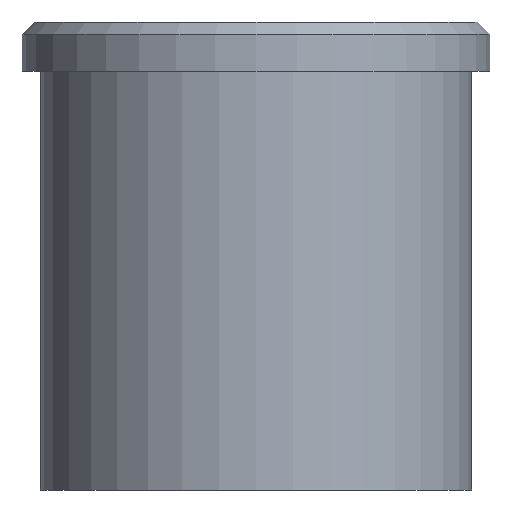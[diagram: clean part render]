
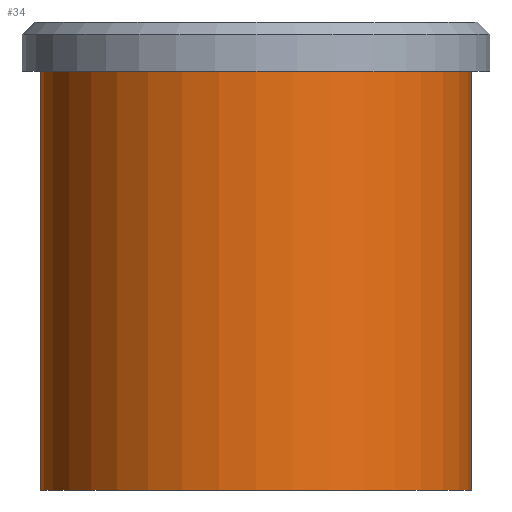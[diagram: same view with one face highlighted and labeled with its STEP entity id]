
A CAD part, front view. The second image highlights one B-rep face of the part: STEP entity #34.
In plain terms, the highlighted cylindrical face has radius 8.75 mm (diameter 17.5 mm), a full revolution.
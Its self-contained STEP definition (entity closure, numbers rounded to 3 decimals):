
#27 = VERTEX_POINT ( 'NONE', #67 ) ;
#34 = ADVANCED_FACE ( 'NONE', ( #199, #58 ), #167, .T. ) ;
#42 = CIRCLE ( 'NONE', #152, 8.75 ) ;
#56 = DIRECTION ( 'NONE',  ( 0., 0., 1. ) ) ;
#58 = FACE_OUTER_BOUND ( 'NONE', #170, .T. ) ;
#67 = CARTESIAN_POINT ( 'NONE',  ( 8.75, 0., -2. ) ) ;
#72 = EDGE_LOOP ( 'NONE', ( #192 ) ) ;
#90 = DIRECTION ( 'NONE',  ( 0., 0., 1. ) ) ;
#98 = AXIS2_PLACEMENT_3D ( 'NONE', #149, #90, #132 ) ;
#122 = EDGE_CURVE ( 'NONE', #185, #185, #168, .T. ) ;
#128 = EDGE_CURVE ( 'NONE', #27, #27, #42, .T. ) ;
#131 = DIRECTION ( 'NONE',  ( 0., 0., 1. ) ) ;
#132 = DIRECTION ( 'NONE',  ( 1., 0., 0. ) ) ;
#141 = AXIS2_PLACEMENT_3D ( 'NONE', #173, #131, #178 ) ;
#149 = CARTESIAN_POINT ( 'NONE',  ( 0., 0., 7.209 ) ) ;
#152 = AXIS2_PLACEMENT_3D ( 'NONE', #181, #56, #166 ) ;
#166 = DIRECTION ( 'NONE',  ( 1., 0., 0. ) ) ;
#167 = CYLINDRICAL_SURFACE ( 'NONE', #98, 8.75 ) ;
#168 = CIRCLE ( 'NONE', #141, 8.75 ) ;
#170 = EDGE_LOOP ( 'NONE', ( #174 ) ) ;
#173 = CARTESIAN_POINT ( 'NONE',  ( 0., 0., -19. ) ) ;
#174 = ORIENTED_EDGE ( 'NONE', *, *, #122, .T. ) ;
#178 = DIRECTION ( 'NONE',  ( 1., 0., 0. ) ) ;
#181 = CARTESIAN_POINT ( 'NONE',  ( 0., 0., -2. ) ) ;
#185 = VERTEX_POINT ( 'NONE', #193 ) ;
#192 = ORIENTED_EDGE ( 'NONE', *, *, #128, .F. ) ;
#193 = CARTESIAN_POINT ( 'NONE',  ( 8.75, 0., -19. ) ) ;
#199 = FACE_OUTER_BOUND ( 'NONE', #72, .T. ) ;
